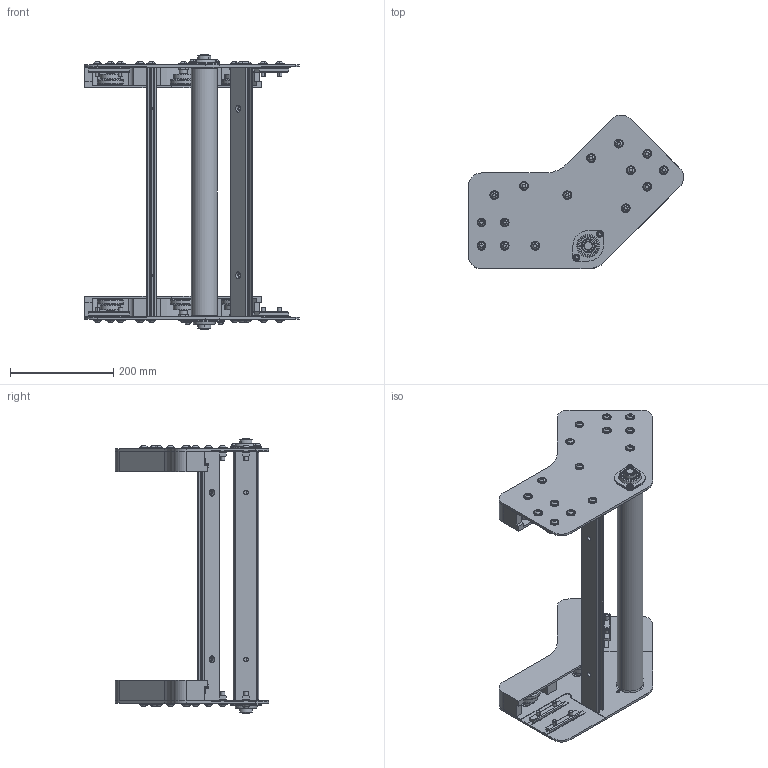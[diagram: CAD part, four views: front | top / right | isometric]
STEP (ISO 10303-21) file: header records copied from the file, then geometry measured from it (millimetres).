
FILE_DESCRIPTION (( 'STEP AP203' ), '1' );
FILE_NAME ('084.095.KA.45.450.STEP', '2019-07-12T10:18:25', ( 'Localadmin' ), ( 'Microsoft' ), 'SwSTEP 2.0', 'SolidWorks 2018', '' );
FILE_SCHEMA (( 'CONFIG_CONTROL_DESIGN' ));
Length unit declared in the file: millimetre
Products named in the file (17): RONDELLE UNI 6592_8.4x17 UNI 6592; 084.821.105; VITI TESTA BOMBATA ISO 730 INOX_M6x10 ISO 7380 INOX; 084.821.102; RONDELLE UNI 6592_6.4x12.5 UNI 6592; 084.302.016; 084.095.KA.45.450; 084.811.004; 084.821.117_Default<A macchina>; CUSCINETTI A SFERE_6002-2Z; 084.821.118_Default<A macchina>; SBPFL 203; 084.821.122; circlip for shafts normal_din_PreviewCfg; 084.821.123; VITI TESTA BOMBATA ISO 730 INOX_M8x25 ISO 7380 INOX; 084.821.103
Assembly tree (129 placements, depth 2):
  084.095.KA.45.450
    084.821.117_Default<A macchina>
    084.821.118_Default<A macchina>  x2
    084.821.122  x2
    084.821.123  x2
    084.821.103  x6
    084.821.105  x6
    084.821.102  x6
    084.302.016  x8
    084.811.004  x2
    CUSCINETTI A SFERE_6002-2Z  x12
    SBPFL 203  x2
    circlip for shafts normal_din_PreviewCfg  x12
    VITI TESTA BOMBATA ISO 730 INOX_M8x25 ISO 7380 INOX  x30
    RONDELLE UNI 6592_8.4x17 UNI 6592  x30
    VITI TESTA BOMBATA ISO 730 INOX_M6x10 ISO 7380 INOX  x4
    RONDELLE UNI 6592_6.4x12.5 UNI 6592  x4
Bounding box: 416.33 x 297.14 x 531 mm (x, y, z)
Volume: 2513141.3 mm3; surface area: 1169341.5 mm2
Topology: 133 solids, 133 shells, 2491 faces, 5873 edges, 3800 vertices
Faces by surface type: plane 1056, cylinder 1011, cone 208, torus 196, sphere 20
Entity records: 22691 total; most frequent: DIRECTION 3356, CARTESIAN_POINT 3298, ORIENTED_EDGE 2832, EDGE_CURVE 1416, AXIS2_PLACEMENT_3D 1282, VERTEX_POINT 928, VECTOR 792, LINE 792
